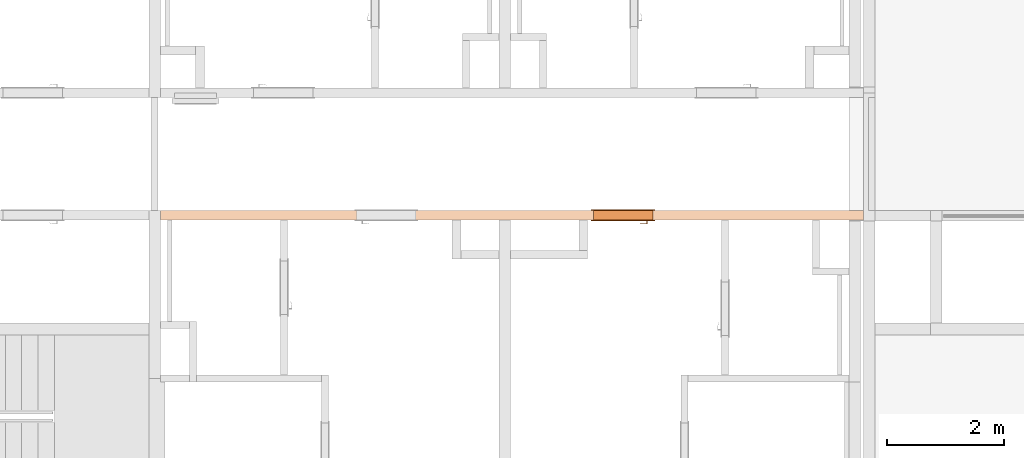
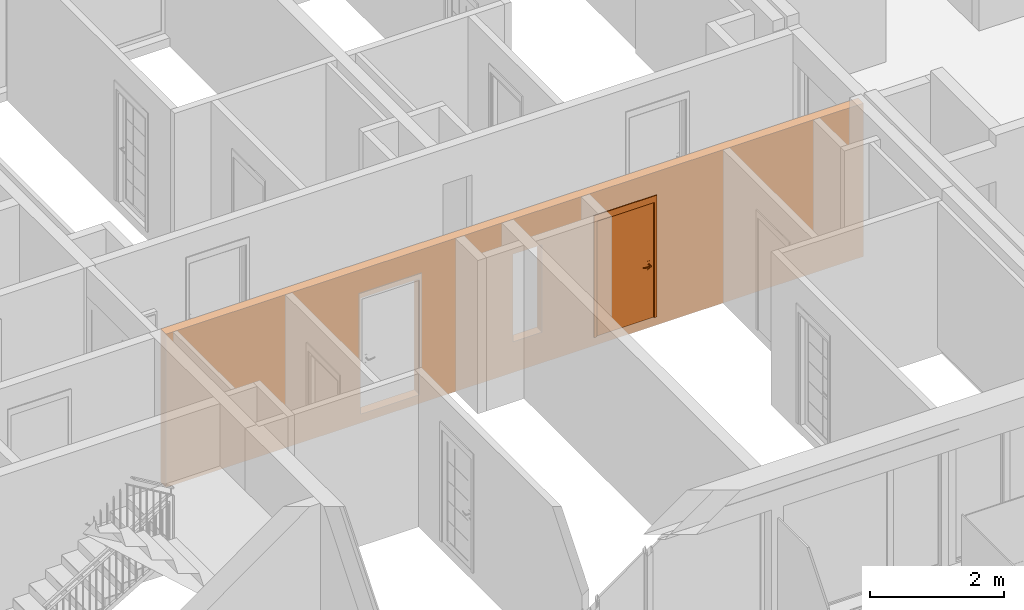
# One storey, part 23 of 64: 1 proxy, 3 openings, plus 1 element that does not belong to this part.
"""IFC2X3 building model written with IfcOpenShell, lengths in millimetres."""

from ifc_helpers import new_model, entity, si_unit, converted_unit, derived_unit, money_unit, direction, frame, origin_with_axes, origin_2d_with_axis, place, context, subcontext, project, spatial, rectangle, extrude, open_shell, faceted_brep, surface_model, source, transform, mapped, material, type_object, element, fill, save


model = new_model("IFC2X3")

# Units and contexts
model_context = context("Model", 3, precision=0.01, world=origin_with_axes(), true_north=direction((0.34421633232, 0.938890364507)))
body_context = subcontext(model_context, "Body", "Model", "MODEL_VIEW")
ifc_project = project(units=[si_unit("LENGTHUNIT", "METRE", prefix="MILLI"), si_unit("AREAUNIT", "SQUARE_METRE"), si_unit("VOLUMEUNIT", "CUBIC_METRE"), converted_unit("PLANEANGLEUNIT", "DEGREE", entity("IfcPlaneAngleMeasure", 0.0174532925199), si_unit("PLANEANGLEUNIT", "RADIAN"), dimensions=[0, 0, 0, 0, 0, 0, 0]), si_unit("SOLIDANGLEUNIT", "STERADIAN"), money_unit("USD"), converted_unit("TIMEUNIT", "Year", entity("IfcTimeMeasure", 31556926.0), si_unit("TIMEUNIT", "SECOND"), dimensions=[0, 0, 1, 0, 0, 0, 0]), si_unit("MASSUNIT", "GRAM", prefix="KILO"), si_unit("THERMODYNAMICTEMPERATUREUNIT", "DEGREE_CELSIUS"), si_unit("LUMINOUSINTENSITYUNIT", "LUMEN"), si_unit("ENERGYUNIT", "JOULE", prefix="MEGA"), derived_unit("THERMALCONDUCTANCEUNIT", [(si_unit("POWERUNIT", "WATT"), 1), (si_unit("LENGTHUNIT", "METRE"), -1), (si_unit("THERMODYNAMICTEMPERATUREUNIT", "KELVIN"), -1)]), derived_unit("SPECIFICHEATCAPACITYUNIT", [(si_unit("ENERGYUNIT", "JOULE"), 1), (si_unit("MASSUNIT", "GRAM", prefix="KILO"), -1), (si_unit("THERMODYNAMICTEMPERATUREUNIT", "KELVIN"), -1)]), derived_unit("MASSDENSITYUNIT", [(si_unit("MASSUNIT", "GRAM", prefix="KILO"), 1), (si_unit("VOLUMEUNIT", "CUBIC_METRE"), -1)])], contexts=[model_context])

# Site, building, storey
site_placement = place(None, origin_with_axes())
site = spatial("IfcSite", under=ifc_project, at=site_placement, Name="USTRONIE MORSKIE", CompositionType="ELEMENT")
building_placement = place(site_placement, origin_with_axes())
building = spatial("IfcBuilding", under=site, at=building_placement, Name="Budynek", CompositionType="ELEMENT")
storey_placement = place(building_placement, frame((0.0, 0.0, 7000.0), z_axis=(0.0, 0.0, 1.0), x_axis=(1.0, 0.0, 0.0)))
storey = spatial("IfcBuildingStorey", under=building, at=storey_placement, Name="PIĘTRO 2", CompositionType="ELEMENT", Elevation=7000.0)

# Proxies, openings
ifc_material = material(Name="Beton konstrukcyjny B25")
building_element_proxy_type_1 = type_object("IfcBuildingElementProxyType", Name="Beton konstrukcyjny B25 160", PredefinedType="NOTDEFINED")
proxy_1_placement = place(storey_placement, frame((408567.92092, 734751.199024, -160.0), z_axis=(0.0, 0.0, 1.0), x_axis=(-1.0, 3.09952852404e-07, 0.0)))
proxy_1 = element("IfcBuildingElementProxy", 1, at=proxy_1_placement, inside=storey, type_object=building_element_proxy_type_1, material=ifc_material, Name="SW-01", context=body_context, shape_type="Brep", body=[
    faceted_brep([(12149.9999761, 80.0000000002, 0.0), (12150.0000257, -79.9999999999, 0.0), (100.000024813, -80.0, 0.0), (99.9999751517, 80.0000000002, 0.0), (12149.9999761, 80.0000000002, 2800.0), (12150.0000257, -79.9999999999, 2800.0), (100.000024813, -80.0, 2800.0), (99.9999751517, 80.0000000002, 2800.0)], [[[0, 1, 2, 3]], [[1, 0, 4, 5]], [[1, 5, 6, 2]], [[7, 3, 2, 6]], [[4, 0, 3, 7]], [[5, 4, 7, 6]]]),
])
opening_1_placement = place(proxy_1_placement, frame((8279.98054202, 0.0, 160.0), z_axis=(0.0, 0.0, 1.0), x_axis=(1.0, 0.0, 0.0)))
element("IfcOpeningElement", 2, at=opening_1_placement, cuts=proxy_1, Name="Dw.1", context=body_context, shape_type="SweptSolid", body=[
    extrude(rectangle(XDim=1020.0, YDim=2120.0, at=origin_2d_with_axis()), frame((0.0, -160.0, 1060.0), z_axis=(0.0, -1.0, 0.0), x_axis=(-1.0, 0.0, 0.0)), (0.0, 0.0, -1.0), 480.0),
    extrude(rectangle(XDim=1094.0, YDim=2227.0, at=origin_2d_with_axis()), frame((0.0, -80.0, 1113.5), z_axis=(0.0, -1.0, 0.0), x_axis=(-1.0, 0.0, 0.0)), (0.0, 0.0, 1.0), 160.0),
    extrude(rectangle(XDim=1094.0, YDim=2227.0, at=origin_2d_with_axis()), frame((0.0, 79.9999999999, 1113.5), z_axis=(0.0, 1.0, 0.0), x_axis=(-1.0, 0.0, 0.0)), (0.0, 0.0, 1.0), 160.0),
])
opening_2_placement = place(proxy_1_placement, frame((4220.01924278, 0.0, 160.0), z_axis=(0.0, 0.0, 1.0), x_axis=(1.0, 0.0, 0.0)))
opening_2 = element("IfcOpeningElement", 3, at=opening_2_placement, cuts=proxy_1, Name="Dw.1", context=body_context, shape_type="SweptSolid", body=[
    extrude(rectangle(XDim=1020.0, YDim=2120.0, at=origin_2d_with_axis()), frame((0.0, -160.0, 1060.0), z_axis=(0.0, 1.0, 0.0), x_axis=(1.0, 0.0, 0.0)), (0.0, 0.0, 1.0), 480.0),
    extrude(rectangle(XDim=1094.0, YDim=2227.0, at=origin_2d_with_axis()), frame((0.0, -80.0, 1113.5), z_axis=(0.0, 1.0, 0.0), x_axis=(1.0, 0.0, 0.0)), (0.0, 0.0, -1.0), 160.0),
    extrude(rectangle(XDim=1094.0, YDim=2227.0, at=origin_2d_with_axis()), frame((0.0, 80.0, 1113.5), z_axis=(0.0, -1.0, 0.0), x_axis=(1.0, 0.0, 0.0)), (0.0, 0.0, -1.0), 160.0),
])
opening_3_placement = place(proxy_1_placement, frame((5900.00003188, 1.13686837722e-10, 560.0), z_axis=(0.0, 0.0, 1.0), x_axis=(1.0, 0.0, 0.0)))
element("IfcOpeningElement", 4, at=opening_3_placement, cuts=proxy_1, Name="R.01", context=body_context, shape_type="SweptSolid", body=[
    extrude(rectangle(XDim=500.001816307, YDim=1600.0, at=origin_2d_with_axis()), frame((0.0, -80.0, 800.0), z_axis=(0.0, 1.0, 0.0), x_axis=(1.0, 0.0, 0.0)), (0.0, 0.0, -1.0), 160.0),
    extrude(rectangle(XDim=500.001816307, YDim=1600.0, at=origin_2d_with_axis()), frame((0.0, -80.0, 800.0), z_axis=(0.0, -1.0, 0.0), x_axis=(1.0, 0.0, 0.0)), (0.0, 0.0, -1.0), 160.0),
])
building_element_proxy_type_2 = type_object("IfcBuildingElementProxyType", Name="Drzwi 23", PredefinedType="NOTDEFINED")
shared_shape = source(origin_with_axes(), body_context, "Body", "SurfaceModel", [
    faceted_brep([(-510.0, -115.0, 0.0), (-485.0, -115.0, 0.0), (-485.0, -160.0, 0.0), (-510.0, -160.0, 0.0), (-510.0, -115.0, 2120.0), (-485.0, -115.0, 2095.0), (-485.0, -160.0, 2095.0), (-510.0, -160.0, 2120.0)], [[[0, 1, 2, 3]], [[0, 4, 5, 1]], [[1, 5, 6, 2]], [[3, 2, 6, 7]], [[4, 0, 3, 7]], [[5, 4, 7, 6]]]),
    faceted_brep([(510.0, -115.0, 2120.0), (485.0, -115.0, 2095.0), (485.0, -160.0, 2095.0), (510.0, -160.0, 2120.0), (510.0, -115.0, 0.0), (485.0, -115.0, 0.0), (485.0, -160.0, 0.0), (510.0, -160.0, 0.0)], [[[0, 1, 2, 3]], [[0, 4, 5, 1]], [[1, 5, 6, 2]], [[3, 2, 6, 7]], [[4, 0, 3, 7]], [[5, 4, 7, 6]]]),
    faceted_brep([(-485.0, -115.0, 2095.0), (485.0, -115.0, 2095.0), (485.0, -160.0, 2095.0), (-485.0, -160.0, 2095.0), (-510.0, -115.0, 2120.0), (510.0, -115.0, 2120.0), (510.0, -160.0, 2120.0), (-510.0, -160.0, 2120.0)], [[[0, 1, 2, 3]], [[0, 4, 5, 1]], [[1, 5, 6, 2]], [[3, 2, 6, 7]], [[4, 0, 3, 7]], [[5, 4, 7, 6]]]),
    faceted_brep([(-547.0, -179.0, 0.0), (-547.0, -160.0, 0.0), (-497.0, -160.0, 0.0), (-497.0, -179.0, 0.0), (-547.0, -179.0, 2227.0), (-547.0, -160.0, 2227.0), (-497.0, -160.0, 2107.0), (-497.0, -179.0, 2107.0)], [[[0, 1, 2, 3]], [[4, 5, 1, 0]], [[1, 5, 6, 2]], [[3, 2, 6, 7]], [[0, 3, 7, 4]], [[7, 6, 5, 4]]]),
    faceted_brep([(547.0, -179.0, 2227.0), (547.0, -160.0, 2227.0), (497.0, -160.0, 2107.0), (497.0, -179.0, 2107.0), (547.0, -179.0, 0.0), (547.0, -160.0, 0.0), (497.0, -160.0, 0.0), (497.0, -179.0, 0.0)], [[[0, 1, 2, 3]], [[4, 5, 1, 0]], [[1, 5, 6, 2]], [[3, 2, 6, 7]], [[0, 3, 7, 4]], [[7, 6, 5, 4]]]),
    faceted_brep([(-547.0, -179.0, 2227.0), (-547.0, -160.0, 2227.0), (-497.0, -160.0, 2107.0), (-497.0, -179.0, 2107.0), (547.0, -179.0, 2227.0), (547.0, -160.0, 2227.0), (497.0, -160.0, 2107.0), (497.0, -179.0, 2107.0)], [[[0, 1, 2, 3]], [[4, 5, 1, 0]], [[1, 5, 6, 2]], [[3, 2, 6, 7]], [[0, 3, 7, 4]], [[7, 6, 5, 4]]]),
    faceted_brep([(-547.0, 19.0, 0.0), (-497.0, 19.0, 0.0), (-497.0, 0.0, 0.0), (-547.0, 0.0, 0.0), (-547.0, 19.0, 2227.0), (-497.0, 19.0, 2107.0), (-497.0, 0.0, 2107.0), (-547.0, 0.0, 2227.0)], [[[0, 1, 2, 3]], [[0, 4, 5, 1]], [[1, 5, 6, 2]], [[3, 2, 6, 7]], [[4, 0, 3, 7]], [[5, 4, 7, 6]]]),
    faceted_brep([(547.0, 19.0, 2227.0), (497.0, 19.0, 2107.0), (497.0, 0.0, 2107.0), (547.0, 0.0, 2227.0), (547.0, 19.0, 0.0), (497.0, 19.0, 0.0), (497.0, 0.0, 0.0), (547.0, 0.0, 0.0)], [[[0, 1, 2, 3]], [[0, 4, 5, 1]], [[1, 5, 6, 2]], [[3, 2, 6, 7]], [[4, 0, 3, 7]], [[5, 4, 7, 6]]]),
    faceted_brep([(-547.0, 19.0, 2227.0), (-497.0, 19.0, 2107.0), (-497.0, 0.0, 2107.0), (-547.0, 0.0, 2227.0), (547.0, 19.0, 2227.0), (497.0, 19.0, 2107.0), (497.0, 0.0, 2107.0), (547.0, 0.0, 2227.0)], [[[0, 1, 2, 3]], [[0, 4, 5, 1]], [[1, 5, 6, 2]], [[3, 2, 6, 7]], [[4, 0, 3, 7]], [[5, 4, 7, 6]]]),
    faceted_brep([(-450.0, -40.0, 0.0), (-450.0, -40.0, 2050.0), (-450.0, -115.0, 2050.0), (-450.0, -115.0, 0.0), (-462.0, -40.0, 2050.0), (-462.0, -40.0, 0.0), (-462.0, 0.0, 2050.0), (-510.0, 0.0, 2050.0), (-510.0, -115.0, 2050.0), (-510.0, -115.0, 0.0), (-510.0, 0.0, 0.0), (-462.0, 0.0, 0.0)], [[[0, 1, 2, 3]], [[4, 1, 0, 5]], [[4, 6, 7, 8, 2, 1]], [[3, 2, 8, 9]], [[5, 0, 3, 9, 10, 11]], [[6, 4, 5, 11]], [[6, 11, 10, 7]], [[10, 9, 8, 7]]]),
    faceted_brep([(462.0, -40.0, 2050.0), (450.0, -40.0, 2050.0), (450.0, -115.0, 2050.0), (510.0, -115.0, 2050.0), (510.0, 0.0, 2050.0), (462.0, 0.0, 2050.0), (462.0, -40.0, 0.0), (450.0, -40.0, 0.0), (450.0, -115.0, 0.0), (510.0, -115.0, 0.0), (510.0, 0.0, 0.0), (462.0, 0.0, 0.0)], [[[0, 1, 2, 3, 4, 5]], [[1, 0, 6, 7]], [[1, 7, 8, 2]], [[3, 2, 8, 9]], [[4, 3, 9, 10]], [[11, 5, 4, 10]], [[0, 5, 11, 6]], [[6, 11, 10, 9, 8, 7]]]),
    faceted_brep([(-462.0, 0.0, 2062.0), (-462.0, 0.0, 2050.0), (-510.0, 0.0, 2050.0), (-510.0, 0.0, 2120.0), (510.0, 0.0, 2120.0), (510.0, 0.0, 2050.0), (462.0, 0.0, 2050.0), (462.0, 0.0, 2062.0), (-462.0, -40.0, 2062.0), (-462.0, -40.0, 2050.0), (-450.0, -40.0, 2050.0), (-450.0, -115.0, 2050.0), (-510.0, -115.0, 2050.0), (-510.0, -115.0, 2120.0), (510.0, -115.0, 2120.0), (510.0, -115.0, 2050.0), (462.0, -40.0, 2050.0), (450.0, -115.0, 2050.0), (450.0, -40.0, 2050.0), (462.0, -40.0, 2062.0)], [[[0, 1, 2, 3, 4, 5, 6, 7]], [[1, 0, 8, 9]], [[9, 10, 11, 12, 2, 1]], [[2, 12, 13, 3]], [[3, 13, 14, 4]], [[4, 14, 15, 5]], [[16, 6, 5, 15, 17, 18]], [[7, 6, 16, 19]], [[0, 7, 19, 8]], [[16, 18, 10, 9, 8, 19]], [[10, 18, 17, 11]], [[17, 15, 14, 13, 12, 11]]]),
    faceted_brep([(-440.5, -40.0, 1060.0), (-440.5, -43.0, 1060.0), (-383.5, -43.0, 1060.0), (-383.5, -40.0, 1060.0), (-440.5, -40.0, 870.0), (-440.5, -43.0, 870.0), (-383.5, -43.0, 870.0), (-383.5, -40.0, 870.0)], [[[0, 1, 2, 3]], [[4, 5, 1, 0]], [[1, 5, 6, 2]], [[3, 2, 6, 7]], [[0, 3, 7, 4]], [[7, 6, 5, 4]]]),
    faceted_brep([(-412.0, -104.0, 990.0), (-412.0, -111.0, 990.0), (-417.0, -111.0, 991.339745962), (-417.0, -104.0, 991.339745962), (-387.0, -104.0, 990.0), (-387.0, -111.0, 990.0), (-387.0, -111.0, 1010.0), (-412.0, -111.0, 1010.0), (-417.0, -111.0, 1008.66025404), (-420.660254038, -111.0, 1005.0), (-422.0, -111.0, 1000.0), (-420.660254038, -111.0, 995.0), (-420.660254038, -104.0, 995.0), (-422.0, -104.0, 1000.0), (-420.660254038, -104.0, 1005.0), (-417.0, -104.0, 1008.66025404), (-412.0, -104.0, 1010.0), (-387.0, -104.0, 1010.0)], [[[0, 1, 2, 3]], [[4, 5, 1, 0]], [[1, 5, 6, 7, 8, 9, 10, 11, 2]], [[3, 2, 11, 12]], [[0, 3, 12, 13, 14, 15, 16, 17, 4]], [[17, 6, 5, 4]], [[16, 7, 6, 17]], [[15, 8, 7, 16]], [[14, 9, 8, 15]], [[13, 10, 9, 14]], [[12, 11, 10, 13]]]),
    surface_model("IfcShellBasedSurfaceModel", [(-387.0, -104.0, 1010.0), (-373.596090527, -111.0, 1009.60730092), (-373.901717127, -104.0, 1009.60730092), (-387.0, -111.0, 1010.0), (-346.890283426, -108.663544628, 1008.82190275), (-373.901717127, -104.0, 990.392699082), (-387.0, -104.0, 990.0), (-387.0, -111.0, 990.0), (-373.596090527, -111.0, 990.392699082), (-346.890283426, -108.663544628, 991.178097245), (-347.804837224, -101.716818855, 1008.82190275), (-347.804837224, -101.716818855, 991.178097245), (-320.489735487, -104.008415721, 991.963495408), (-320.489735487, -104.008415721, 1008.03650459), (-322.006256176, -97.1678329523, 1008.03650459), (-322.006256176, -97.1678329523, 991.963495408), (-294.59537082, -97.0700416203, 992.748893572), (-294.59537082, -97.0700416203, 1007.25110643), (-296.702316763, -90.3876628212, 1007.25110643), (-296.702316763, -90.3876628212, 992.748893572), (-286.538795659, -94.1376880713, 993.0), (-286.538795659, -94.1376880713, 1007.0), (-288.829442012, -87.5221707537, 1007.0), (-288.829442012, -87.5221707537, 993.0)], [open_shell([[[0, 1, 2]], [[0, 3, 1]], [[2, 1, 4]], [[0, 2, 5, 6]], [[3, 7, 8, 1]], [[1, 8, 9, 4]], [[2, 4, 10]], [[2, 10, 11, 5]], [[5, 7, 6]], [[5, 8, 7]], [[11, 9, 8]], [[4, 9, 12, 13]], [[10, 4, 13]], [[10, 14, 15, 11]], [[11, 8, 5]], [[15, 9, 11]], [[15, 12, 9]], [[13, 12, 16, 17]], [[10, 13, 14]], [[14, 18, 19, 15]], [[19, 12, 15]], [[19, 16, 12]], [[17, 16, 20, 21]], [[14, 13, 17]], [[14, 17, 18]], [[18, 22, 23, 19]], [[23, 16, 19]], [[23, 20, 16]], [[22, 21, 20, 23]], [[18, 17, 21]], [[18, 21, 22]]])]),
    faceted_brep([(-401.607695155, -53.0, 994.0), (-400.741669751, -43.0, 993.5), (-399.0, -43.0, 1000.0), (-400.0, -53.0, 1000.0), (-406.0, -53.0, 989.607695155), (-405.5, -43.0, 988.741669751), (-412.0, -43.0, 987.0), (-418.5, -43.0, 988.741669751), (-423.258330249, -43.0, 993.5), (-425.0, -43.0, 1000.0), (-423.258330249, -43.0, 1006.5), (-418.5, -43.0, 1011.25833025), (-412.0, -43.0, 1013.0), (-405.5, -43.0, 1011.25833025), (-400.741669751, -43.0, 1006.5), (-401.607695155, -53.0, 1006.0), (-406.0, -53.0, 1010.39230485), (-412.0, -53.0, 1012.0), (-418.0, -53.0, 1010.39230485), (-422.392304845, -53.0, 1006.0), (-424.0, -53.0, 1000.0), (-422.392304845, -53.0, 994.0), (-418.0, -53.0, 989.607695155), (-412.0, -53.0, 988.0)], [[[0, 1, 2, 3]], [[4, 5, 1, 0]], [[2, 1, 5, 6, 7, 8, 9, 10, 11, 12, 13, 14]], [[3, 2, 14, 15]], [[3, 15, 16, 17, 18, 19, 20, 21, 22, 23, 4, 0]], [[23, 6, 5, 4]], [[22, 7, 6, 23]], [[21, 8, 7, 22]], [[20, 9, 8, 21]], [[19, 10, 9, 20]], [[18, 11, 10, 19]], [[17, 12, 11, 18]], [[16, 13, 12, 17]], [[15, 14, 13, 16]]]),
    faceted_brep([(-394.679491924, -47.0, 895.0), (-392.947441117, -43.0, 894.0), (-390.0, -43.0, 905.0), (-392.0, -47.0, 905.0), (-402.0, -47.0, 887.679491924), (-401.0, -43.0, 885.947441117), (-412.0, -43.0, 883.0), (-423.0, -43.0, 885.947441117), (-431.052558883, -43.0, 894.0), (-434.0, -43.0, 905.0), (-431.052558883, -43.0, 916.0), (-423.0, -43.0, 924.052558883), (-412.0, -43.0, 927.0), (-401.0, -43.0, 924.052558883), (-392.947441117, -43.0, 916.0), (-394.679491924, -47.0, 915.0), (-402.0, -47.0, 922.320508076), (-412.0, -47.0, 925.0), (-422.0, -47.0, 922.320508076), (-429.320508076, -47.0, 915.0), (-432.0, -47.0, 905.0), (-429.320508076, -47.0, 895.0), (-422.0, -47.0, 887.679491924), (-412.0, -47.0, 885.0)], [[[0, 1, 2, 3]], [[4, 5, 1, 0]], [[2, 1, 5, 6, 7, 8, 9, 10, 11, 12, 13, 14]], [[3, 2, 14, 15]], [[3, 15, 16, 17, 18, 19, 20, 21, 22, 23, 4, 0]], [[23, 6, 5, 4]], [[22, 7, 6, 23]], [[21, 8, 7, 22]], [[20, 9, 8, 21]], [[19, 10, 9, 20]], [[18, 11, 10, 19]], [[17, 12, 11, 18]], [[16, 13, 12, 17]], [[15, 14, 13, 16]]]),
    faceted_brep([(-407.050252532, -49.0, 909.050252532), (-406.343145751, -47.0, 908.343145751), (-404.0, -47.0, 914.0), (-405.0, -49.0, 914.0), (-412.0, -49.0, 907.0), (-412.0, -47.0, 906.0), (-417.656854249, -47.0, 908.343145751), (-420.0, -47.0, 914.0), (-417.656854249, -47.0, 919.656854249), (-412.0, -47.0, 922.0), (-406.343145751, -47.0, 919.656854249), (-407.050252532, -49.0, 918.949747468), (-412.0, -49.0, 921.0), (-416.949747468, -49.0, 918.949747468), (-419.0, -49.0, 914.0), (-416.949747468, -49.0, 909.050252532)], [[[0, 1, 2, 3]], [[4, 5, 1, 0]], [[2, 1, 5, 6, 7, 8, 9, 10]], [[3, 2, 10, 11]], [[3, 11, 12, 13, 14, 15, 4, 0]], [[15, 6, 5, 4]], [[14, 7, 6, 15]], [[13, 8, 7, 14]], [[12, 9, 8, 13]], [[11, 10, 9, 12]]]),
    faceted_brep([(-412.0, -53.0, 1010.0), (-412.0, -104.0, 1010.0), (-407.0, -104.0, 1008.66025404), (-407.0, -53.0, 1008.66025404), (-417.0, -53.0, 1008.66025404), (-417.0, -104.0, 1008.66025404), (-420.660254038, -104.0, 1005.0), (-422.0, -104.0, 1000.0), (-420.660254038, -104.0, 995.0), (-417.0, -104.0, 991.339745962), (-412.0, -104.0, 990.0), (-407.0, -104.0, 991.339745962), (-403.339745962, -104.0, 995.0), (-402.0, -104.0, 1000.0), (-403.339745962, -104.0, 1005.0), (-403.339745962, -53.0, 1005.0), (-402.0, -53.0, 1000.0), (-403.339745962, -53.0, 995.0), (-407.0, -53.0, 991.339745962), (-412.0, -53.0, 990.0), (-417.0, -53.0, 991.339745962), (-420.660254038, -53.0, 995.0), (-422.0, -53.0, 1000.0), (-420.660254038, -53.0, 1005.0)], [[[0, 1, 2, 3]], [[4, 5, 1, 0]], [[1, 5, 6, 7, 8, 9, 10, 11, 12, 13, 14, 2]], [[3, 2, 14, 15]], [[0, 3, 15, 16, 17, 18, 19, 20, 21, 22, 23, 4]], [[23, 6, 5, 4]], [[22, 7, 6, 23]], [[21, 8, 7, 22]], [[20, 9, 8, 21]], [[19, 10, 9, 20]], [[18, 11, 10, 19]], [[17, 12, 11, 18]], [[16, 13, 12, 17]], [[15, 14, 13, 16]]]),
    faceted_brep([(-440.5, 0.0, 1060.0), (-383.5, 0.0, 1060.0), (-383.5, 3.0, 1060.0), (-440.5, 3.0, 1060.0), (-440.5, 0.0, 870.0), (-383.5, 0.0, 870.0), (-383.5, 3.0, 870.0), (-440.5, 3.0, 870.0)], [[[0, 1, 2, 3]], [[0, 4, 5, 1]], [[1, 5, 6, 2]], [[3, 2, 6, 7]], [[4, 0, 3, 7]], [[5, 4, 7, 6]]]),
    faceted_brep([(-412.0, 64.0, 990.0), (-417.0, 64.0, 991.339745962), (-417.0, 71.0, 991.339745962), (-412.0, 71.0, 990.0), (-387.0, 64.0, 990.0), (-387.0, 64.0, 1010.0), (-412.0, 64.0, 1010.0), (-417.0, 64.0, 1008.66025404), (-420.660254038, 64.0, 1005.0), (-422.0, 64.0, 1000.0), (-420.660254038, 64.0, 995.0), (-420.660254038, 71.0, 995.0), (-422.0, 71.0, 1000.0), (-420.660254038, 71.0, 1005.0), (-417.0, 71.0, 1008.66025404), (-412.0, 71.0, 1010.0), (-387.0, 71.0, 1010.0), (-387.0, 71.0, 990.0)], [[[0, 1, 2, 3]], [[0, 4, 5, 6, 7, 8, 9, 10, 1]], [[1, 10, 11, 2]], [[3, 2, 11, 12, 13, 14, 15, 16, 17]], [[4, 0, 3, 17]], [[5, 4, 17, 16]], [[6, 5, 16, 15]], [[7, 6, 15, 14]], [[8, 7, 14, 13]], [[9, 8, 13, 12]], [[10, 9, 12, 11]]]),
    surface_model("IfcShellBasedSurfaceModel", [(-387.0, 64.0, 1010.0), (-373.901717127, 64.0, 1009.60730092), (-373.596090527, 71.0, 1009.60730092), (-387.0, 64.0, 990.0), (-373.901717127, 64.0, 990.392699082), (-346.890283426, 68.6635446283, 1008.82190275), (-387.0, 71.0, 1010.0), (-387.0, 71.0, 990.0), (-347.804837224, 61.716818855, 991.178097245), (-347.804837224, 61.716818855, 1008.82190275), (-346.890283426, 68.6635446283, 991.178097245), (-373.596090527, 71.0, 990.392699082), (-322.006256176, 57.1678329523, 991.963495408), (-322.006256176, 57.1678329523, 1008.03650459), (-320.489735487, 64.0084157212, 1008.03650459), (-320.489735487, 64.0084157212, 991.963495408), (-296.702316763, 50.3876628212, 992.748893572), (-296.702316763, 50.3876628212, 1007.25110643), (-294.59537082, 57.0700416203, 1007.25110643), (-294.59537082, 57.0700416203, 992.748893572), (-288.829442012, 47.5221707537, 993.0), (-288.829442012, 47.5221707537, 1007.0), (-286.538795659, 54.1376880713, 1007.0), (-286.538795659, 54.1376880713, 993.0)], [open_shell([[[0, 1, 2]], [[0, 3, 4, 1]], [[1, 5, 2]], [[0, 2, 6]], [[4, 3, 7]], [[1, 4, 8, 9]], [[1, 9, 5]], [[2, 5, 10, 11]], [[6, 2, 11, 7]], [[4, 7, 11]], [[8, 4, 11]], [[9, 8, 12, 13]], [[9, 14, 5]], [[5, 14, 15, 10]], [[8, 11, 10]], [[12, 8, 10]], [[13, 12, 16, 17]], [[9, 13, 14]], [[14, 18, 19, 15]], [[12, 10, 15]], [[16, 12, 15]], [[17, 16, 20, 21]], [[13, 17, 18]], [[13, 18, 14]], [[18, 22, 23, 19]], [[16, 15, 19]], [[20, 16, 19]], [[21, 20, 23, 22]], [[17, 21, 22]], [[17, 22, 18]], [[20, 19, 23]]])]),
    faceted_brep([(-401.607695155, 13.0, 994.0), (-400.0, 13.0, 1000.0), (-399.0, 3.0, 1000.0), (-400.741669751, 3.0, 993.5), (-406.0, 13.0, 989.607695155), (-412.0, 13.0, 988.0), (-418.0, 13.0, 989.607695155), (-422.392304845, 13.0, 994.0), (-424.0, 13.0, 1000.0), (-422.392304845, 13.0, 1006.0), (-418.0, 13.0, 1010.39230485), (-412.0, 13.0, 1012.0), (-406.0, 13.0, 1010.39230485), (-401.607695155, 13.0, 1006.0), (-400.741669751, 3.0, 1006.5), (-405.5, 3.0, 1011.25833025), (-412.0, 3.0, 1013.0), (-418.5, 3.0, 1011.25833025), (-423.258330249, 3.0, 1006.5), (-425.0, 3.0, 1000.0), (-423.258330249, 3.0, 993.5), (-418.5, 3.0, 988.741669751), (-412.0, 3.0, 987.0), (-405.5, 3.0, 988.741669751)], [[[0, 1, 2, 3]], [[1, 0, 4, 5, 6, 7, 8, 9, 10, 11, 12, 13]], [[1, 13, 14, 2]], [[2, 14, 15, 16, 17, 18, 19, 20, 21, 22, 23, 3]], [[4, 0, 3, 23]], [[5, 4, 23, 22]], [[6, 5, 22, 21]], [[7, 6, 21, 20]], [[8, 7, 20, 19]], [[9, 8, 19, 18]], [[10, 9, 18, 17]], [[11, 10, 17, 16]], [[12, 11, 16, 15]], [[13, 12, 15, 14]]]),
    faceted_brep([(-394.679491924, 7.0, 895.0), (-392.0, 7.0, 905.0), (-390.0, 3.0, 905.0), (-392.947441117, 3.0, 894.0), (-402.0, 7.0, 887.679491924), (-412.0, 7.0, 885.0), (-422.0, 7.0, 887.679491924), (-429.320508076, 7.0, 895.0), (-432.0, 7.0, 905.0), (-429.320508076, 7.0, 915.0), (-422.0, 7.0, 922.320508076), (-412.0, 7.0, 925.0), (-402.0, 7.0, 922.320508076), (-394.679491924, 7.0, 915.0), (-392.947441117, 3.0, 916.0), (-401.0, 3.0, 924.052558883), (-412.0, 3.0, 927.0), (-423.0, 3.0, 924.052558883), (-431.052558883, 3.0, 916.0), (-434.0, 3.0, 905.0), (-431.052558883, 3.0, 894.0), (-423.0, 3.0, 885.947441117), (-412.0, 3.0, 883.0), (-401.0, 3.0, 885.947441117)], [[[0, 1, 2, 3]], [[1, 0, 4, 5, 6, 7, 8, 9, 10, 11, 12, 13]], [[1, 13, 14, 2]], [[2, 14, 15, 16, 17, 18, 19, 20, 21, 22, 23, 3]], [[4, 0, 3, 23]], [[5, 4, 23, 22]], [[6, 5, 22, 21]], [[7, 6, 21, 20]], [[8, 7, 20, 19]], [[9, 8, 19, 18]], [[10, 9, 18, 17]], [[11, 10, 17, 16]], [[12, 11, 16, 15]], [[13, 12, 15, 14]]]),
    faceted_brep([(-407.050252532, 9.0, 909.050252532), (-405.0, 9.0, 914.0), (-404.0, 7.0, 914.0), (-406.343145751, 7.0, 908.343145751), (-412.0, 9.0, 907.0), (-416.949747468, 9.0, 909.050252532), (-419.0, 9.0, 914.0), (-416.949747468, 9.0, 918.949747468), (-412.0, 9.0, 921.0), (-407.050252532, 9.0, 918.949747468), (-406.343145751, 7.0, 919.656854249), (-412.0, 7.0, 922.0), (-417.656854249, 7.0, 919.656854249), (-420.0, 7.0, 914.0), (-417.656854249, 7.0, 908.343145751), (-412.0, 7.0, 906.0)], [[[0, 1, 2, 3]], [[1, 0, 4, 5, 6, 7, 8, 9]], [[1, 9, 10, 2]], [[2, 10, 11, 12, 13, 14, 15, 3]], [[4, 0, 3, 15]], [[5, 4, 15, 14]], [[6, 5, 14, 13]], [[7, 6, 13, 12]], [[8, 7, 12, 11]], [[9, 8, 11, 10]]]),
    faceted_brep([(-412.0, 13.0, 1010.0), (-407.0, 13.0, 1008.66025404), (-407.0, 64.0, 1008.66025404), (-412.0, 64.0, 1010.0), (-417.0, 13.0, 1008.66025404), (-420.660254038, 13.0, 1005.0), (-422.0, 13.0, 1000.0), (-420.660254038, 13.0, 995.0), (-417.0, 13.0, 991.339745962), (-412.0, 13.0, 990.0), (-407.0, 13.0, 991.339745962), (-403.339745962, 13.0, 995.0), (-402.0, 13.0, 1000.0), (-403.339745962, 13.0, 1005.0), (-403.339745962, 64.0, 1005.0), (-402.0, 64.0, 1000.0), (-403.339745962, 64.0, 995.0), (-407.0, 64.0, 991.339745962), (-412.0, 64.0, 990.0), (-417.0, 64.0, 991.339745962), (-420.660254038, 64.0, 995.0), (-422.0, 64.0, 1000.0), (-420.660254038, 64.0, 1005.0), (-417.0, 64.0, 1008.66025404)], [[[0, 1, 2, 3]], [[0, 4, 5, 6, 7, 8, 9, 10, 11, 12, 13, 1]], [[1, 13, 14, 2]], [[3, 2, 14, 15, 16, 17, 18, 19, 20, 21, 22, 23]], [[4, 0, 3, 23]], [[5, 4, 23, 22]], [[6, 5, 22, 21]], [[7, 6, 21, 20]], [[8, 7, 20, 19]], [[9, 8, 19, 18]], [[10, 9, 18, 17]], [[11, 10, 17, 16]], [[12, 11, 16, 15]], [[13, 12, 15, 14]]]),
    faceted_brep([(462.0, 0.0, 0.0), (462.0, -40.0, 0.0), (-462.0, -40.0, 0.0), (-462.0, 0.0, 0.0), (462.0, 0.0, 2062.0), (462.0, -40.0, 2062.0), (-462.0, -40.0, 2062.0), (-462.0, 0.0, 2062.0)], [[[0, 1, 2, 3]], [[4, 5, 1, 0]], [[1, 5, 6, 2]], [[3, 2, 6, 7]], [[0, 3, 7, 4]], [[7, 6, 5, 4]]]),
])
proxy_2_placement = place(opening_2_placement, frame((-450.0, 1.13686837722e-10, 0.0), z_axis=(0.0, 0.0, 1.0), x_axis=(1.0, 0.0, 0.0)))
proxy_2 = element("IfcBuildingElementProxy", 5, at=proxy_2_placement, inside=storey, type_object=building_element_proxy_type_2, Name="Dw.1", context=body_context, shape_type="MappedRepresentation", body=[
    mapped(shared_shape, transform((450.0, 80.0, 0.0))),
])
fill(opening_2, proxy_2)

save(model, "model.ifc")
